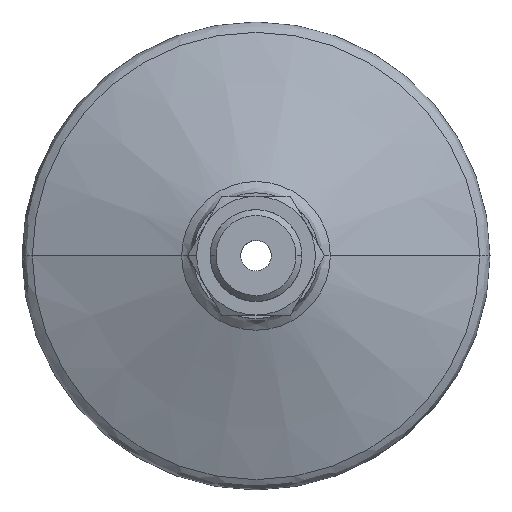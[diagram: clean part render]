
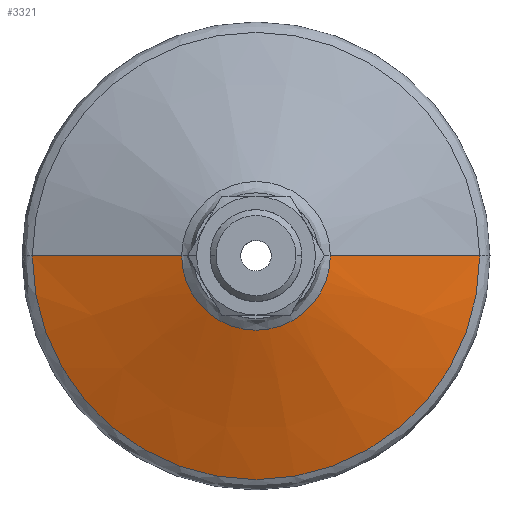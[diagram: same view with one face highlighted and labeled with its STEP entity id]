
A CAD part, top view. The second image highlights one B-rep face of the part: STEP entity #3321.
In plain terms, the highlighted conical face has half-angle 69.99 degrees and reference radius 32.02 mm.
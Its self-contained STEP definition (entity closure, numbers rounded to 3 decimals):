
#261 = DIRECTION ( 'NONE',  ( -1., 0., 0. ) ) ;
#522 = CIRCLE ( 'NONE', #1807, 10.644 ) ;
#524 = VECTOR ( 'NONE', #2560, 1000. ) ;
#681 = CARTESIAN_POINT ( 'NONE',  ( -10.644, 0., 23.892 ) ) ;
#685 = AXIS2_PLACEMENT_3D ( 'NONE', #2027, #2553, #2557 ) ;
#983 = VERTEX_POINT ( 'NONE', #3224 ) ;
#1065 = EDGE_CURVE ( 'NONE', #1270, #983, #1845, .T. ) ;
#1270 = VERTEX_POINT ( 'NONE', #681 ) ;
#1281 = FACE_OUTER_BOUND ( 'NONE', #3155, .T. ) ;
#1546 = EDGE_CURVE ( 'NONE', #983, #3584, #2902, .T. ) ;
#1574 = EDGE_CURVE ( 'NONE', #1810, #3584, #2919, .T. ) ;
#1584 = DIRECTION ( 'NONE',  ( 1., 0., 0. ) ) ;
#1586 = DIRECTION ( 'NONE',  ( -0.94, 0., -0.342 ) ) ;
#1589 = DIRECTION ( 'NONE',  ( 0., 0., -1. ) ) ;
#1624 = EDGE_CURVE ( 'NONE', #1810, #1270, #522, .T. ) ;
#1637 = ORIENTED_EDGE ( 'NONE', *, *, #1574, .F. ) ;
#1658 = CARTESIAN_POINT ( 'NONE',  ( -32.02, 0., 16.108 ) ) ;
#1807 = AXIS2_PLACEMENT_3D ( 'NONE', #2626, #1589, #1584 ) ;
#1810 = VERTEX_POINT ( 'NONE', #2910 ) ;
#1845 = LINE ( 'NONE', #1658, #2835 ) ;
#2027 = CARTESIAN_POINT ( 'NONE',  ( 0., 0., 16.108 ) ) ;
#2267 = ORIENTED_EDGE ( 'NONE', *, *, #1624, .T. ) ;
#2282 = ORIENTED_EDGE ( 'NONE', *, *, #1546, .T. ) ;
#2553 = DIRECTION ( 'NONE',  ( 0., 0., 1. ) ) ;
#2557 = DIRECTION ( 'NONE',  ( 1., 0., 0. ) ) ;
#2559 = CARTESIAN_POINT ( 'NONE',  ( 32.02, 0., 16.108 ) ) ;
#2560 = DIRECTION ( 'NONE',  ( 0.94, 0., -0.342 ) ) ;
#2572 = CARTESIAN_POINT ( 'NONE',  ( 0., 0., 16.108 ) ) ;
#2626 = CARTESIAN_POINT ( 'NONE',  ( 0., 0., 23.892 ) ) ;
#2835 = VECTOR ( 'NONE', #1586, 1000. ) ;
#2902 = CIRCLE ( 'NONE', #685, 32.02 ) ;
#2910 = CARTESIAN_POINT ( 'NONE',  ( 10.644, 0., 23.892 ) ) ;
#2916 = DIRECTION ( 'NONE',  ( 0., 0., -1. ) ) ;
#2919 = LINE ( 'NONE', #2559, #524 ) ;
#3155 = EDGE_LOOP ( 'NONE', ( #1637, #2267, #4063, #2282 ) ) ;
#3224 = CARTESIAN_POINT ( 'NONE',  ( -32.02, 0., 16.108 ) ) ;
#3321 = ADVANCED_FACE ( 'NONE', ( #1281 ), #3884, .T. ) ;
#3339 = CARTESIAN_POINT ( 'NONE',  ( 32.02, 0., 16.108 ) ) ;
#3584 = VERTEX_POINT ( 'NONE', #3339 ) ;
#3884 = CONICAL_SURFACE ( 'NONE', #3987, 32.02, 1.222 ) ;
#3987 = AXIS2_PLACEMENT_3D ( 'NONE', #2572, #2916, #261 ) ;
#4063 = ORIENTED_EDGE ( 'NONE', *, *, #1065, .T. ) ;
